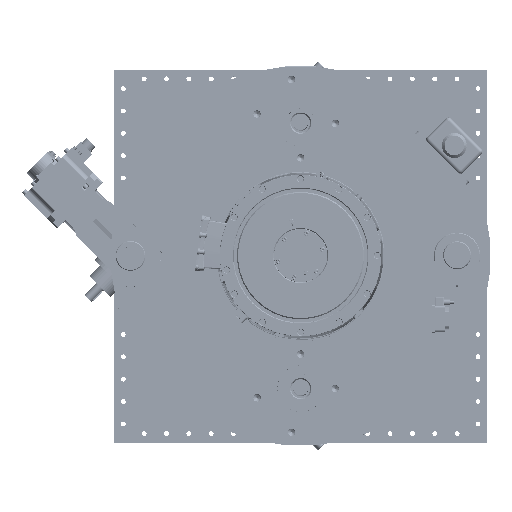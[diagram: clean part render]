
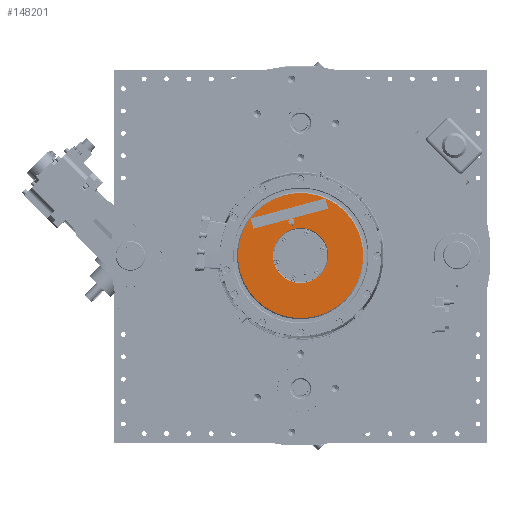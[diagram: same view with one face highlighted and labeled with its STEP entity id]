
A CAD part, top view. The second image highlights one B-rep face of the part: STEP entity #148201.
In plain terms, the highlighted planar face has unit normal (0, 0, 1).
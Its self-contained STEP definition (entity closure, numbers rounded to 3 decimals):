
#7261=FACE_BOUND('',#25049,.T.);
#7262=FACE_BOUND('',#25050,.T.);
#9432=PLANE('',#160098);
#16365=FACE_OUTER_BOUND('',#25048,.T.);
#25048=EDGE_LOOP('',(#116755));
#25049=EDGE_LOOP('',(#116756,#116757,#116758,#116759,#116760,#116761));
#25050=EDGE_LOOP('',(#116762));
#31267=LINE('',#221916,#41222);
#31271=LINE('',#221924,#41226);
#31274=LINE('',#221930,#41229);
#31277=LINE('',#221936,#41232);
#31280=LINE('',#221941,#41235);
#41222=VECTOR('',#176321,10.);
#41226=VECTOR('',#176325,10.);
#41229=VECTOR('',#176330,10.);
#41232=VECTOR('',#176335,10.);
#41235=VECTOR('',#176340,10.);
#53104=CIRCLE('',#160028,167.975);
#53157=CIRCLE('',#160099,8.);
#53158=CIRCLE('',#160100,74.);
#59178=VERTEX_POINT('',#221912);
#59180=VERTEX_POINT('',#221915);
#59183=VERTEX_POINT('',#221921);
#59184=VERTEX_POINT('',#221923);
#59186=VERTEX_POINT('',#221929);
#59188=VERTEX_POINT('',#221935);
#64369=VERTEX_POINT('',#308275);
#64420=VERTEX_POINT('',#308414);
#74811=EDGE_CURVE('',#59180,#59178,#31267,.T.);
#74815=EDGE_CURVE('',#59184,#59183,#31271,.T.);
#74818=EDGE_CURVE('',#59186,#59180,#31274,.T.);
#74821=EDGE_CURVE('',#59188,#59186,#31277,.T.);
#74824=EDGE_CURVE('',#59183,#59188,#31280,.T.);
#82879=EDGE_CURVE('',#64369,#64369,#53104,.T.);
#82947=EDGE_CURVE('',#59178,#59184,#53157,.T.);
#82948=EDGE_CURVE('',#64420,#64420,#53158,.T.);
#116755=ORIENTED_EDGE('',*,*,#82879,.T.);
#116756=ORIENTED_EDGE('',*,*,#74811,.T.);
#116757=ORIENTED_EDGE('',*,*,#82947,.T.);
#116758=ORIENTED_EDGE('',*,*,#74815,.T.);
#116759=ORIENTED_EDGE('',*,*,#74824,.T.);
#116760=ORIENTED_EDGE('',*,*,#74821,.T.);
#116761=ORIENTED_EDGE('',*,*,#74818,.T.);
#116762=ORIENTED_EDGE('',*,*,#82948,.F.);
#148201=ADVANCED_FACE('',(#16365,#7261,#7262),#9432,.T.);
#160028=AXIS2_PLACEMENT_3D('',#308277,#188447,#188448);
#160098=AXIS2_PLACEMENT_3D('',#308412,#188602,#188603);
#160099=AXIS2_PLACEMENT_3D('',#308413,#188604,#188605);
#160100=AXIS2_PLACEMENT_3D('',#308415,#188606,#188607);
#176321=DIRECTION('',(-0.966,-0.26,0.));
#176325=DIRECTION('',(-0.966,-0.26,0.));
#176330=DIRECTION('',(0.26,-0.966,0.));
#176335=DIRECTION('',(0.966,0.26,0.));
#176340=DIRECTION('',(-0.26,0.966,0.));
#188447=DIRECTION('center_axis',(0.,0.,
1.));
#188448=DIRECTION('ref_axis',(-0.26,0.966,0.));
#188602=DIRECTION('center_axis',(0.,0.,
1.));
#188603=DIRECTION('ref_axis',(0.966,0.26,0.));
#188604=DIRECTION('center_axis',(0.,0.,
-1.));
#188605=DIRECTION('ref_axis',(0.966,0.26,0.));
#188606=DIRECTION('center_axis',(0.,0.,
1.));
#188607=DIRECTION('ref_axis',(-0.26,0.966,0.));
#221912=CARTESIAN_POINT('',(-23.806,99.692,1054.6));
#221915=CARTESIAN_POINT('',(73.773,125.938,1054.6));
#221916=CARTESIAN_POINT('',(23.581,112.438,1054.6));
#221921=CARTESIAN_POINT('',(-126.665,72.026,1054.6));
#221923=CARTESIAN_POINT('',(-29.417,98.183,1054.6));
#221924=CARTESIAN_POINT('',(23.581,112.438,1054.6));
#221929=CARTESIAN_POINT('',(66.384,153.409,1054.6));
#221930=CARTESIAN_POINT('',(67.377,149.716,1054.6));
#221935=CARTESIAN_POINT('',(-134.054,99.497,1054.6));
#221936=CARTESIAN_POINT('',(-84.027,112.953,1054.6));
#221941=CARTESIAN_POINT('',(-129.366,82.069,1054.6));
#308275=CARTESIAN_POINT('',(43.629,-162.21,1054.6));
#308277=CARTESIAN_POINT('Origin',(0.,0.,
1054.6));
#308412=CARTESIAN_POINT('Origin',(-32.013,119.023,1054.6));
#308413=CARTESIAN_POINT('Origin',(-24.675,91.74,1054.6));
#308414=CARTESIAN_POINT('',(19.221,-71.46,1054.6));
#308415=CARTESIAN_POINT('Origin',(0.,0.,
1054.6));
